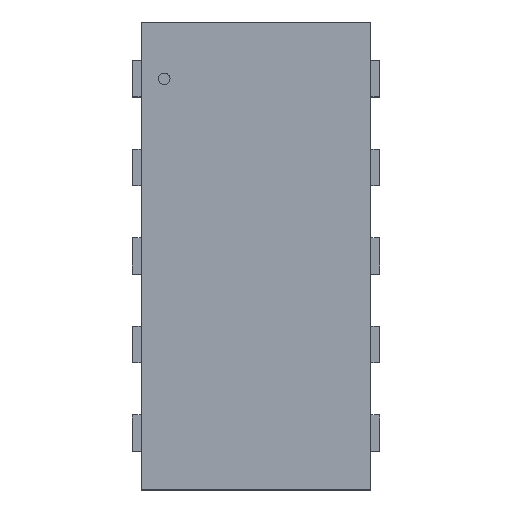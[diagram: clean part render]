
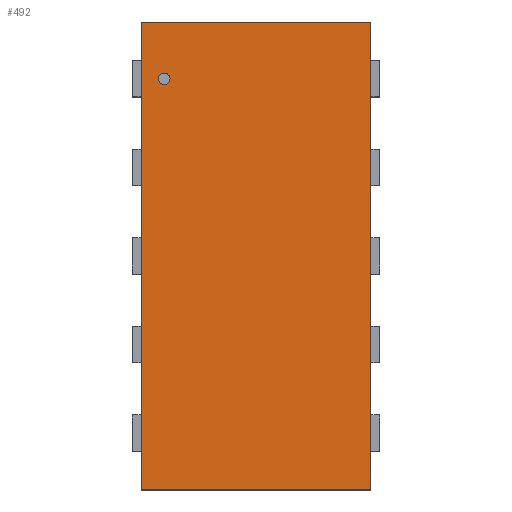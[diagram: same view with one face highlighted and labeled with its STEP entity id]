
A CAD part, top view. The second image highlights one B-rep face of the part: STEP entity #492.
In plain terms, the highlighted planar face has unit normal (0, 0, 1).
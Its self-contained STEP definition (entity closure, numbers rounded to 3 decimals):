
#268=CARTESIAN_POINT('',(0.648,-1.321,0.508));
#267=VERTEX_POINT('',#268);
#278=CARTESIAN_POINT('',(-0.648,-1.321,0.508));
#277=VERTEX_POINT('',#278);
#276=EDGE_CURVE('',#277,#267,#281,.T.);
#281=LINE('',#278,#283);
#283=VECTOR('',#284,1.295);
#284=DIRECTION('',(1.0,0.0,0.0));
#317=CARTESIAN_POINT('',(0.648,1.321,0.508));
#316=VERTEX_POINT('',#317);
#325=EDGE_CURVE('',#267,#316,#330,.T.);
#330=LINE('',#268,#332);
#332=VECTOR('',#333,2.642);
#333=DIRECTION('',(0.0,1.0,0.0));
#366=CARTESIAN_POINT('',(-0.648,1.321,0.508));
#365=VERTEX_POINT('',#366);
#374=EDGE_CURVE('',#316,#365,#379,.T.);
#379=LINE('',#317,#381);
#381=VECTOR('',#382,1.295);
#382=DIRECTION('',(-1.0,0.0,0.0));
#423=EDGE_CURVE('',#365,#277,#428,.T.);
#428=LINE('',#366,#430);
#430=VECTOR('',#431,2.642);
#431=DIRECTION('',(0.0,-1.0,0.0));
#492=ADVANCED_FACE('',(#498),#493,.T.);
#493=PLANE('',#494);
#494=AXIS2_PLACEMENT_3D('',#495,#496,#497);
#495=CARTESIAN_POINT('',(-0.648,-1.321,0.508));
#496=DIRECTION('',(0.0,0.0,1.0));
#497=DIRECTION('',(0.,1.,0.));
#498=FACE_OUTER_BOUND('',#499,.T.);
#499=EDGE_LOOP('',(#500,#510,#520,#530));
#500=ORIENTED_EDGE('',*,*,#276,.T.);
#510=ORIENTED_EDGE('',*,*,#325,.T.);
#520=ORIENTED_EDGE('',*,*,#374,.T.);
#530=ORIENTED_EDGE('',*,*,#423,.T.);
